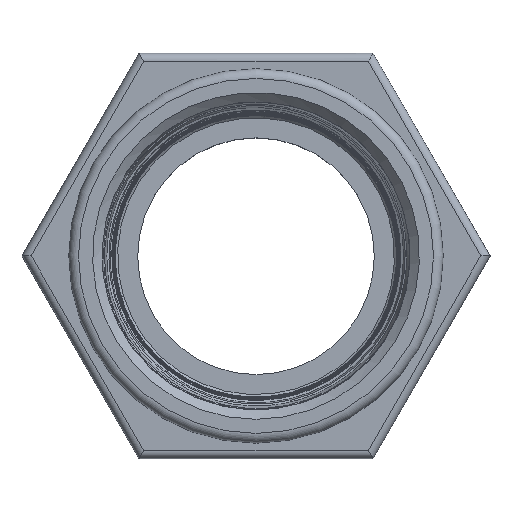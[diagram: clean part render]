
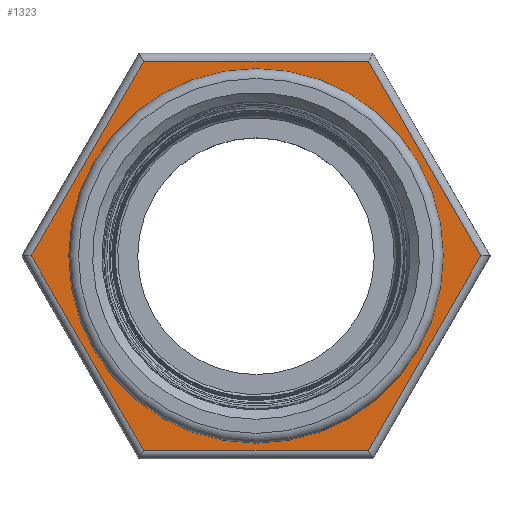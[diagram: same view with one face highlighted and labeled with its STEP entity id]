
A CAD part, top view. The second image highlights one B-rep face of the part: STEP entity #1323.
In plain terms, the highlighted planar face has unit normal (0, 0, 1).
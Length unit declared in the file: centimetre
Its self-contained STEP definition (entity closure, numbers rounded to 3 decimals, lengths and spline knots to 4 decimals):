
#182=VECTOR('',#1560,1.);
#183=VECTOR('',#1567,1.);
#184=VECTOR('',#1572,1.);
#185=VECTOR('',#1577,1.);
#187=VECTOR('',#1583,1.);
#189=VECTOR('',#1589,1.);
#250=LINE('',#1879,#182);
#251=LINE('',#1885,#183);
#252=LINE('',#1889,#184);
#253=LINE('',#1893,#185);
#255=LINE('',#1899,#187);
#257=LINE('',#1905,#189);
#391=PLANE('',#1422);
#422=VERTEX_POINT('',#1821);
#441=VERTEX_POINT('',#1880);
#442=VERTEX_POINT('',#1881);
#443=VERTEX_POINT('',#1886);
#444=VERTEX_POINT('',#1890);
#445=VERTEX_POINT('',#1894);
#447=VERTEX_POINT('',#1900);
#542=CIRCLE('',#1390,2.9337);
#568=EDGE_CURVE('',#422,#422,#542,.T.);
#596=EDGE_CURVE('',#441,#442,#250,.T.);
#599=EDGE_CURVE('',#443,#441,#251,.T.);
#601=EDGE_CURVE('',#444,#443,#252,.T.);
#603=EDGE_CURVE('',#445,#444,#253,.T.);
#606=EDGE_CURVE('',#447,#445,#255,.T.);
#609=EDGE_CURVE('',#442,#447,#257,.T.);
#830=ORIENTED_EDGE('',*,*,#568,.F.);
#831=ORIENTED_EDGE('',*,*,#596,.F.);
#832=ORIENTED_EDGE('',*,*,#599,.F.);
#833=ORIENTED_EDGE('',*,*,#601,.F.);
#834=ORIENTED_EDGE('',*,*,#603,.F.);
#835=ORIENTED_EDGE('',*,*,#606,.F.);
#836=ORIENTED_EDGE('',*,*,#609,.F.);
#1154=EDGE_LOOP('',(#830));
#1155=EDGE_LOOP('',(#831,#832,#833,#834,#835,#836));
#1242=FACE_BOUND('',#1154,.T.);
#1243=FACE_BOUND('',#1155,.T.);
#1323=ADVANCED_FACE('',(#1242,#1243),#391,.T.);
#1390=AXIS2_PLACEMENT_3D('',#1820,#1504,#1505);
#1422=AXIS2_PLACEMENT_3D('',#1907,#1591,$);
#1504=DIRECTION('',(0.,0.,1.));
#1505=DIRECTION('',(2.934,0.,0.));
#1560=DIRECTION('',(1.,0.,0.));
#1567=DIRECTION('',(0.5,0.866,0.));
#1572=DIRECTION('',(-0.5,0.866,0.));
#1577=DIRECTION('',(-1.,0.,0.));
#1583=DIRECTION('',(-0.5,-0.866,0.));
#1589=DIRECTION('',(0.5,-0.866,0.));
#1591=DIRECTION('',(0.,0.,1.));
#1820=CARTESIAN_POINT('',(0.,0.,3.7338));
#1821=CARTESIAN_POINT('',(-2.9337,0.,3.7338));
#1879=CARTESIAN_POINT('',(0.,3.048,3.7338));
#1880=CARTESIAN_POINT('',(-1.7598,3.048,3.7338));
#1881=CARTESIAN_POINT('',(1.7598,3.048,3.7338));
#1885=CARTESIAN_POINT('',(-2.6396,1.524,3.7338));
#1886=CARTESIAN_POINT('',(-3.5195,0.,3.7338));
#1889=CARTESIAN_POINT('',(-2.6396,-1.524,3.7338));
#1890=CARTESIAN_POINT('',(-1.7598,-3.048,3.7338));
#1893=CARTESIAN_POINT('',(0.,-3.048,3.7338));
#1894=CARTESIAN_POINT('',(1.7598,-3.048,3.7338));
#1899=CARTESIAN_POINT('',(2.6396,-1.524,3.7338));
#1900=CARTESIAN_POINT('',(3.5195,0.,3.7338));
#1905=CARTESIAN_POINT('',(2.6396,1.524,3.7338));
#1907=CARTESIAN_POINT('',(0.,0.,3.7338));
